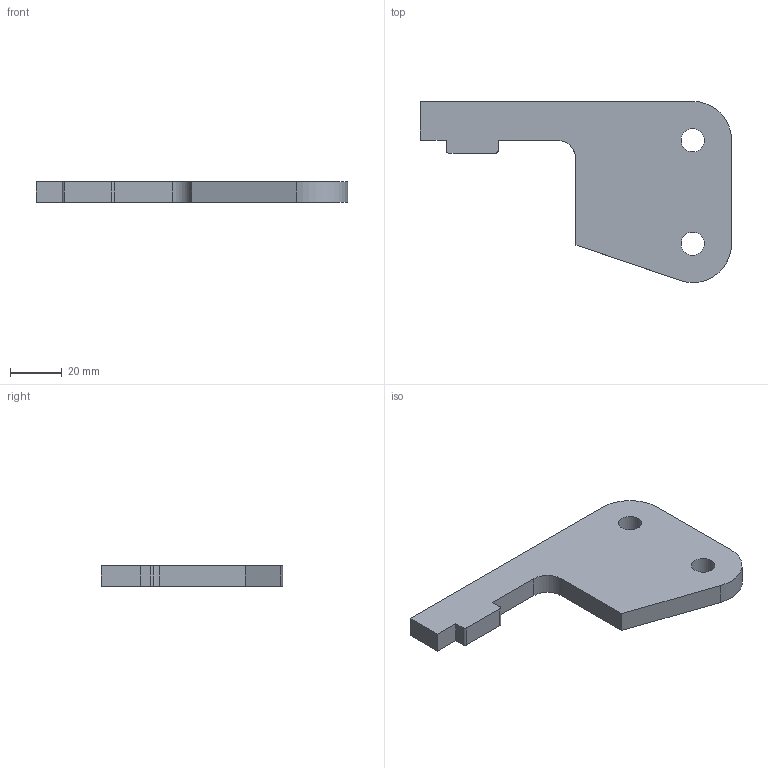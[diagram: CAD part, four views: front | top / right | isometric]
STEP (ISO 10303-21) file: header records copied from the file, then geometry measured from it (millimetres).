
FILE_DESCRIPTION(/* description */ (''),/* implementation_level */ '2;1');
FILE_NAME(/* name */ 'Pos150-Plaatwerk D= 8-S235JRG2-3st',/* time_stamp */ '2024-08-06T13:37:45+02:00',/* author */ (''),/* organization */ (''),/* preprocessor_version */ 'ST-DEVELOPER v16.5',/* originating_system */ 'HiCAD 2024 2901.2 Build 361',/* authorisation */ '');
FILE_SCHEMA (('AUTOMOTIVE_DESIGN { 1 0 10303 214 1 1 1 1 }'));
Length unit declared in the file: millimetre
Products named in the file (1): Pos150-Plaatwerk D= 8-S235JRG2-3st
Bounding box: 120 x 69.92 x 8 mm (x, y, z)
Volume: 37402.8 mm3; surface area: 12689.3 mm2
Topology: 1 solids, 1 shells, 19 faces, 53 edges, 36 vertices
Faces by surface type: plane 12, cylinder 7
Full cylindrical faces by diameter (mm): 9 x2
Entity records: 1105 total; most frequent: CARTESIAN_POINT 102, DIRECTION 101, PRESENTATION_STYLE_ASSIGNMENT 99, COLOUR_RGB 99, DRAUGHTING_PRE_DEFINED_CURVE_FONT 98, CURVE_STYLE 98, OVER_RIDING_STYLED_ITEM 98, ORIENTED_EDGE 98
